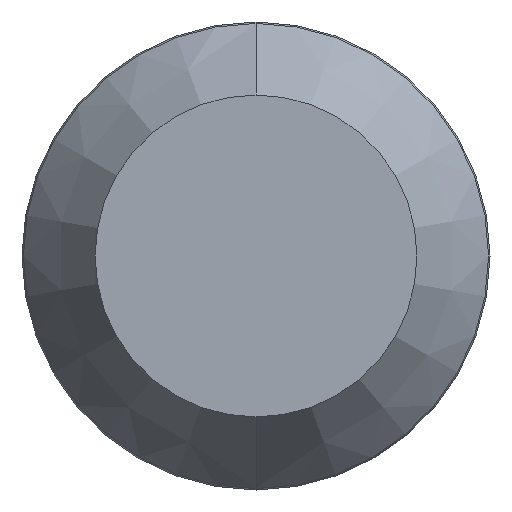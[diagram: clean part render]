
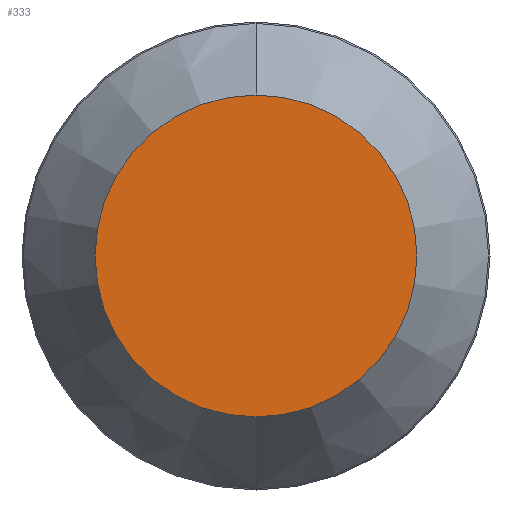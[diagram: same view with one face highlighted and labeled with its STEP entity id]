
A CAD part, front view. The second image highlights one B-rep face of the part: STEP entity #333.
In plain terms, the highlighted planar face has unit normal (0, -1, 0).
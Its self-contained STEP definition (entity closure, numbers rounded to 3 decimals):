
#7 = AXIS2_PLACEMENT_3D ( 'NONE', #202, #39, #101 ) ;
#39 = DIRECTION ( 'NONE',  ( 0., 1., 0. ) ) ;
#41 = CARTESIAN_POINT ( 'NONE',  ( 0., 0., 0. ) ) ;
#47 = DIRECTION ( 'NONE',  ( 0., 0., 1. ) ) ;
#72 = AXIS2_PLACEMENT_3D ( 'NONE', #415, #88, #217 ) ;
#86 = VERTEX_POINT ( 'NONE', #400 ) ;
#88 = DIRECTION ( 'NONE',  ( 0., 1., 0. ) ) ;
#101 = DIRECTION ( 'NONE',  ( 0., 0., 1. ) ) ;
#126 = VERTEX_POINT ( 'NONE', #358 ) ;
#179 = EDGE_CURVE ( 'NONE', #126, #86, #341, .T. ) ;
#202 = CARTESIAN_POINT ( 'NONE',  ( 0., 0., 0. ) ) ;
#217 = DIRECTION ( 'NONE',  ( 0., 0., 1. ) ) ;
#233 = PLANE ( 'NONE',  #7 ) ;
#265 = ORIENTED_EDGE ( 'NONE', *, *, #179, .F. ) ;
#267 = CIRCLE ( 'NONE', #357, 20. ) ;
#324 = EDGE_LOOP ( 'NONE', ( #265, #368 ) ) ;
#326 = FACE_OUTER_BOUND ( 'NONE', #324, .T. ) ;
#333 = ADVANCED_FACE ( 'NONE', ( #326 ), #233, .F. ) ;
#341 = CIRCLE ( 'NONE', #72, 20. ) ;
#345 = DIRECTION ( 'NONE',  ( 0., 1., 0. ) ) ;
#357 = AXIS2_PLACEMENT_3D ( 'NONE', #41, #345, #47 ) ;
#358 = CARTESIAN_POINT ( 'NONE',  ( 0., 0., -20. ) ) ;
#368 = ORIENTED_EDGE ( 'NONE', *, *, #433, .F. ) ;
#400 = CARTESIAN_POINT ( 'NONE',  ( 0., 0., 20. ) ) ;
#415 = CARTESIAN_POINT ( 'NONE',  ( 0., 0., 0. ) ) ;
#433 = EDGE_CURVE ( 'NONE', #86, #126, #267, .T. ) ;
